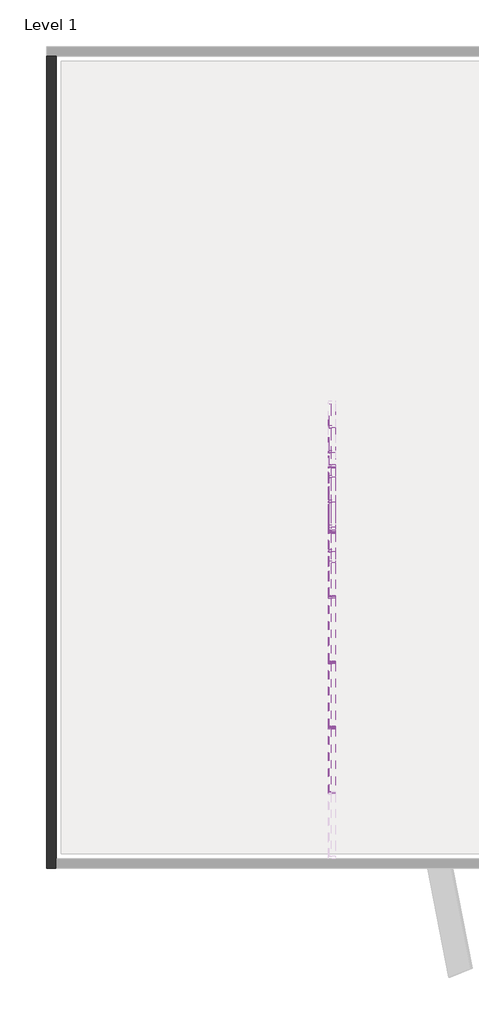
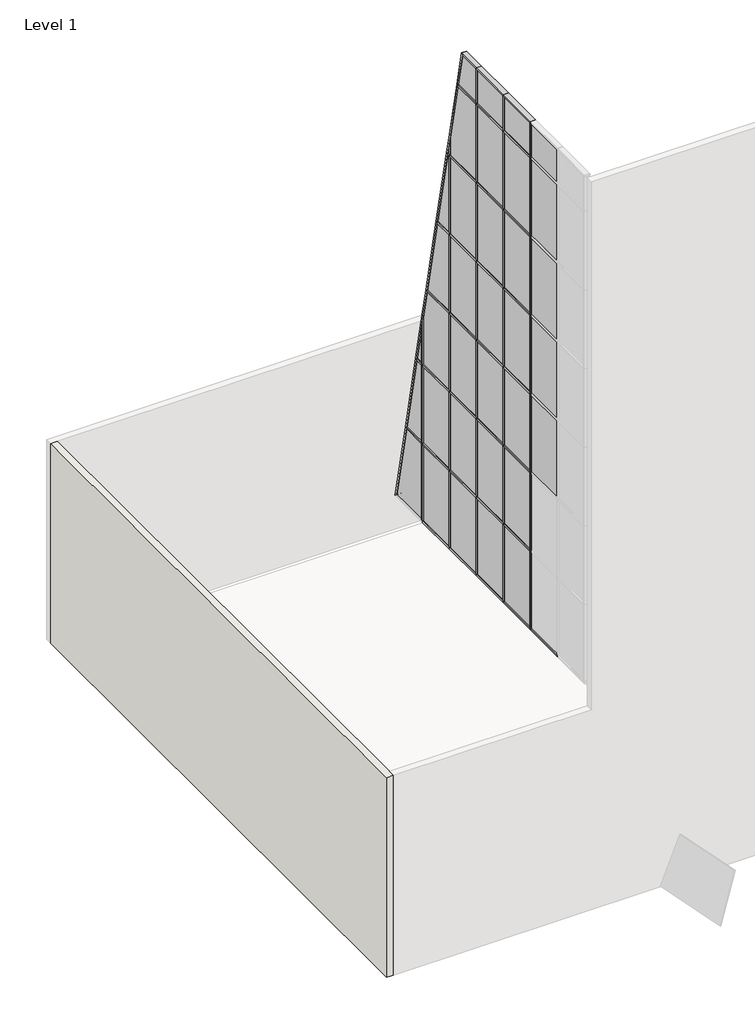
# One storey, part 2 of 4: 72 members, 35 plates, 1 wall.
"""IFC4 building model written with IfcOpenShell, lengths in millimetres."""

from ifc_helpers import new_model, si_unit, origin, place, context, project, spatial, faceted_brep, transform, mapped, element, save
from components import rectangular_mullion_50_x_150mm_518b68e2, rectangular_mullion_50_x_150mm_6225e4e3, rectangular_mullion_50_x_150mm_4186046b, rectangular_mullion_50_x_150mm_c32e1d9f, rectangular_mullion_50_x_150mm_5e882217, rectangular_mullion_50_x_150mm_9c4394d0, rectangular_mullion_50_x_150mm_83d39878, rectangular_mullion_50_x_150mm_ab79993e, rectangular_mullion_50_x_150mm_a810ca79, rectangular_mullion_50_x_150mm_5f09bd8f, rectangular_mullion_50_x_150mm_a6983a9d, rectangular_mullion_50_x_150mm_f096a579, rectangular_mullion_50_x_150mm_e5e13951, rectangular_mullion_50_x_150mm_64552576, rectangular_mullion_50_x_150mm_be9a8604, rectangular_mullion_50_x_150mm_5e9d6b44, rectangular_mullion_50_x_150mm_df767b7e, rectangular_mullion_50_x_150mm_b9e57bac, rectangular_mullion_50_x_150mm_3844b6de, rectangular_mullion_50_x_150mm_a9c68ae1, rectangular_mullion_50_x_150mm_3cb7fb0e, system_panel_glazed_df259216, system_panel_glazed_5715ea40, system_panel_glazed_c13ca40c, system_panel_glazed_f44025e2, system_panel_glazed_dfe15f06, system_panel_glazed_9da83126, system_panel_glazed_f5b096f9, system_panel_glazed_817d0208, system_panel_glazed_a6be7c91, system_panel_glazed_dd6b3847, system_panel_glazed_892f7a3c, system_panel_glazed_be4283e0

model = new_model("IFC4")

# Units and contexts
model_context = context("Model", 3, world=origin())
ifc_project = project(units=[si_unit("LENGTHUNIT", "METRE", prefix="MILLI")], contexts=[model_context])

# Site, building, storey
site = spatial("IfcSite", under=ifc_project)
building = spatial("IfcBuilding", under=site)
storey = spatial("IfcBuildingStorey", under=building, Name="Level 1", Elevation=0.0)

# Members
placement = place(None, origin())
rectangular_mullion_50_x_150mm_shape = rectangular_mullion_50_x_150mm_518b68e2(model_context)
element("IfcMember", 1, ObjectType="Rectangular Mullion : 50 x 150mm", at=placement, inside=storey, context=model_context, shape_type="MappedRepresentation", body=[
    mapped(rectangular_mullion_50_x_150mm_shape, transform((-8113.532296, 6709.8159291, 6850.0), x_axis=(0.0, -1.0, 0.0), y_axis=(-1.0, 0.0, 0.0), z_axis=(0.0, 0.0, -1.0))),
])
element("IfcMember", 2, ObjectType="Rectangular Mullion : 50 x 150mm", at=placement, inside=storey, context=model_context, shape_type="MappedRepresentation", body=[
    mapped(rectangular_mullion_50_x_150mm_shape, transform((-8113.532296, 5356.4956938, 6850.0), x_axis=(0.0, -1.0, 0.0), y_axis=(-1.0, 0.0, 0.0), z_axis=(0.0, 0.0, -1.0))),
])
element("IfcMember", 3, ObjectType="Rectangular Mullion : 50 x 150mm", at=placement, inside=storey, context=model_context, shape_type="MappedRepresentation", body=[
    mapped(rectangular_mullion_50_x_150mm_shape, transform((-8113.532296, 4003.1754584, 6850.0), x_axis=(0.0, -1.0, 0.0), y_axis=(-1.0, 0.0, 0.0), z_axis=(0.0, 0.0, -1.0))),
])
element("IfcMember", 4, ObjectType="Rectangular Mullion : 50 x 150mm", at=placement, inside=storey, context=model_context, shape_type="MappedRepresentation", body=[
    mapped(rectangular_mullion_50_x_150mm_shape, transform((-8113.532296, 2649.855223, 6850.0), x_axis=(0.0, -1.0, 0.0), y_axis=(-1.0, 0.0, 0.0), z_axis=(0.0, 0.0, -1.0))),
])
element("IfcMember", 5, ObjectType="Rectangular Mullion : 50 x 150mm", at=placement, inside=storey, context=model_context, shape_type="MappedRepresentation", body=[
    mapped(rectangular_mullion_50_x_150mm_shape, transform((-8113.532296, 1296.5349876, 6850.0), x_axis=(0.0, -1.0, 0.0), y_axis=(-1.0, 0.0, 0.0), z_axis=(0.0, 0.0, -1.0))),
])
rectangular_mullion_50_x_150mm_2_shape = rectangular_mullion_50_x_150mm_6225e4e3(model_context)
element("IfcMember", 6, ObjectType="Rectangular Mullion : 50 x 150mm", at=placement, inside=storey, context=model_context, shape_type="MappedRepresentation", body=[
    mapped(rectangular_mullion_50_x_150mm_2_shape, transform((-8113.532296, 6709.8159291, 9200.0), x_axis=(0.0, -1.0, 0.0), y_axis=(-1.0, 0.0, 0.0), z_axis=(0.0, 0.0, -1.0))),
])
element("IfcMember", 7, ObjectType="Rectangular Mullion : 50 x 150mm", at=placement, inside=storey, context=model_context, shape_type="MappedRepresentation", body=[
    mapped(rectangular_mullion_50_x_150mm_2_shape, transform((-8113.532296, 5356.4956938, 9200.0), x_axis=(0.0, -1.0, 0.0), y_axis=(-1.0, 0.0, 0.0), z_axis=(0.0, 0.0, -1.0))),
])
element("IfcMember", 8, ObjectType="Rectangular Mullion : 50 x 150mm", at=placement, inside=storey, context=model_context, shape_type="MappedRepresentation", body=[
    mapped(rectangular_mullion_50_x_150mm_2_shape, transform((-8113.532296, 4003.1754584, 9200.0), x_axis=(0.0, -1.0, 0.0), y_axis=(-1.0, 0.0, 0.0), z_axis=(0.0, 0.0, -1.0))),
])
element("IfcMember", 9, ObjectType="Rectangular Mullion : 50 x 150mm", at=placement, inside=storey, context=model_context, shape_type="MappedRepresentation", body=[
    mapped(rectangular_mullion_50_x_150mm_2_shape, transform((-8113.532296, 2649.855223, 9200.0), x_axis=(0.0, -1.0, 0.0), y_axis=(-1.0, 0.0, 0.0), z_axis=(0.0, 0.0, -1.0))),
])
element("IfcMember", 10, ObjectType="Rectangular Mullion : 50 x 150mm", at=placement, inside=storey, context=model_context, shape_type="MappedRepresentation", body=[
    mapped(rectangular_mullion_50_x_150mm_2_shape, transform((-8113.532296, 1296.5349876, 9200.0), x_axis=(0.0, -1.0, 0.0), y_axis=(-1.0, 0.0, 0.0), z_axis=(0.0, 0.0, -1.0))),
])
element("IfcMember", 11, ObjectType="Rectangular Mullion : 50 x 150mm", at=placement, inside=storey, context=model_context, shape_type="MappedRepresentation", body=[
    mapped(rectangular_mullion_50_x_150mm_2_shape, transform((-8113.532296, 5356.4956938, 11600.0), x_axis=(0.0, -1.0, 0.0), y_axis=(-1.0, 0.0, 0.0), z_axis=(0.0, 0.0, -1.0))),
])
element("IfcMember", 12, ObjectType="Rectangular Mullion : 50 x 150mm", at=placement, inside=storey, context=model_context, shape_type="MappedRepresentation", body=[
    mapped(rectangular_mullion_50_x_150mm_2_shape, transform((-8113.532296, 4003.1754584, 11600.0), x_axis=(0.0, -1.0, 0.0), y_axis=(-1.0, 0.0, 0.0), z_axis=(0.0, 0.0, -1.0))),
])
element("IfcMember", 13, ObjectType="Rectangular Mullion : 50 x 150mm", at=placement, inside=storey, context=model_context, shape_type="MappedRepresentation", body=[
    mapped(rectangular_mullion_50_x_150mm_2_shape, transform((-8113.532296, 2649.855223, 11600.0), x_axis=(0.0, -1.0, 0.0), y_axis=(-1.0, 0.0, 0.0), z_axis=(0.0, 0.0, -1.0))),
])
element("IfcMember", 14, ObjectType="Rectangular Mullion : 50 x 150mm", at=placement, inside=storey, context=model_context, shape_type="MappedRepresentation", body=[
    mapped(rectangular_mullion_50_x_150mm_2_shape, transform((-8113.532296, 1296.5349876, 11600.0), x_axis=(0.0, -1.0, 0.0), y_axis=(-1.0, 0.0, 0.0), z_axis=(0.0, 0.0, -1.0))),
])
element("IfcMember", 15, ObjectType="Rectangular Mullion : 50 x 150mm", at=placement, inside=storey, context=model_context, shape_type="MappedRepresentation", body=[
    mapped(rectangular_mullion_50_x_150mm_2_shape, transform((-8113.532296, 5356.4956938, 14000.0), x_axis=(0.0, -1.0, 0.0), y_axis=(-1.0, 0.0, 0.0), z_axis=(0.0, 0.0, -1.0))),
])
element("IfcMember", 16, ObjectType="Rectangular Mullion : 50 x 150mm", at=placement, inside=storey, context=model_context, shape_type="MappedRepresentation", body=[
    mapped(rectangular_mullion_50_x_150mm_2_shape, transform((-8113.532296, 4003.1754584, 14000.0), x_axis=(0.0, -1.0, 0.0), y_axis=(-1.0, 0.0, 0.0), z_axis=(0.0, 0.0, -1.0))),
])
element("IfcMember", 17, ObjectType="Rectangular Mullion : 50 x 150mm", at=placement, inside=storey, context=model_context, shape_type="MappedRepresentation", body=[
    mapped(rectangular_mullion_50_x_150mm_2_shape, transform((-8113.532296, 2649.855223, 14000.0), x_axis=(0.0, -1.0, 0.0), y_axis=(-1.0, 0.0, 0.0), z_axis=(0.0, 0.0, -1.0))),
])
element("IfcMember", 18, ObjectType="Rectangular Mullion : 50 x 150mm", at=placement, inside=storey, context=model_context, shape_type="MappedRepresentation", body=[
    mapped(rectangular_mullion_50_x_150mm_2_shape, transform((-8113.532296, 1296.5349876, 14000.0), x_axis=(0.0, -1.0, 0.0), y_axis=(-1.0, 0.0, 0.0), z_axis=(0.0, 0.0, -1.0))),
])
element("IfcMember", 19, ObjectType="Rectangular Mullion : 50 x 150mm", at=placement, inside=storey, context=model_context, shape_type="MappedRepresentation", body=[
    mapped(rectangular_mullion_50_x_150mm_2_shape, transform((-8113.532296, 5356.4956938, 16400.0), x_axis=(0.0, -1.0, 0.0), y_axis=(-1.0, 0.0, 0.0), z_axis=(0.0, 0.0, -1.0))),
])
element("IfcMember", 20, ObjectType="Rectangular Mullion : 50 x 150mm", at=placement, inside=storey, context=model_context, shape_type="MappedRepresentation", body=[
    mapped(rectangular_mullion_50_x_150mm_2_shape, transform((-8113.532296, 4003.1754584, 16400.0), x_axis=(0.0, -1.0, 0.0), y_axis=(-1.0, 0.0, 0.0), z_axis=(0.0, 0.0, -1.0))),
])
element("IfcMember", 21, ObjectType="Rectangular Mullion : 50 x 150mm", at=placement, inside=storey, context=model_context, shape_type="MappedRepresentation", body=[
    mapped(rectangular_mullion_50_x_150mm_2_shape, transform((-8113.532296, 2649.855223, 16400.0), x_axis=(0.0, -1.0, 0.0), y_axis=(-1.0, 0.0, 0.0), z_axis=(0.0, 0.0, -1.0))),
])
element("IfcMember", 22, ObjectType="Rectangular Mullion : 50 x 150mm", at=placement, inside=storey, context=model_context, shape_type="MappedRepresentation", body=[
    mapped(rectangular_mullion_50_x_150mm_2_shape, transform((-8113.532296, 1296.5349876, 16400.0), x_axis=(0.0, -1.0, 0.0), y_axis=(-1.0, 0.0, 0.0), z_axis=(0.0, 0.0, -1.0))),
])
element("IfcMember", 23, ObjectType="Rectangular Mullion : 50 x 150mm", at=placement, inside=storey, context=model_context, shape_type="MappedRepresentation", body=[
    mapped(rectangular_mullion_50_x_150mm_2_shape, transform((-8113.532296, 4003.1754584, 18800.0), x_axis=(0.0, -1.0, 0.0), y_axis=(-1.0, 0.0, 0.0), z_axis=(0.0, 0.0, -1.0))),
])
element("IfcMember", 24, ObjectType="Rectangular Mullion : 50 x 150mm", at=placement, inside=storey, context=model_context, shape_type="MappedRepresentation", body=[
    mapped(rectangular_mullion_50_x_150mm_2_shape, transform((-8113.532296, 2649.855223, 18800.0), x_axis=(0.0, -1.0, 0.0), y_axis=(-1.0, 0.0, 0.0), z_axis=(0.0, 0.0, -1.0))),
])
element("IfcMember", 25, ObjectType="Rectangular Mullion : 50 x 150mm", at=placement, inside=storey, context=model_context, shape_type="MappedRepresentation", body=[
    mapped(rectangular_mullion_50_x_150mm_2_shape, transform((-8113.532296, 1296.5349876, 18800.0), x_axis=(0.0, -1.0, 0.0), y_axis=(-1.0, 0.0, 0.0), z_axis=(0.0, 0.0, -1.0))),
])
rectangular_mullion_50_x_150mm_3_shape = rectangular_mullion_50_x_150mm_4186046b(model_context)
element("IfcMember", 26, ObjectType="Rectangular Mullion : 50 x 150mm", at=placement, inside=storey, context=model_context, shape_type="MappedRepresentation", body=[
    mapped(rectangular_mullion_50_x_150mm_3_shape, transform((-8113.532296, 2649.855223, 22300.0), x_axis=(0.0, 0.0, 1.0), y_axis=(-1.0, 0.0, 0.0), z_axis=(0.0, -1.0, 0.0))),
])
element("IfcMember", 27, ObjectType="Rectangular Mullion : 50 x 150mm", at=placement, inside=storey, context=model_context, shape_type="MappedRepresentation", body=[
    mapped(rectangular_mullion_50_x_150mm_3_shape, transform((-8113.532296, 1296.5349876, 22300.0), x_axis=(0.0, 0.0, 1.0), y_axis=(-1.0, 0.0, 0.0), z_axis=(0.0, -1.0, 0.0))),
])
element("IfcMember", 28, ObjectType="Rectangular Mullion : 50 x 150mm", at=placement, inside=storey, context=model_context, shape_type="MappedRepresentation", body=[
    mapped(rectangular_mullion_50_x_150mm_3_shape, transform((-8113.532296, 6709.8159291, 6800.0), x_axis=(0.0, 0.0, -1.0), y_axis=(-1.0, 0.0, 0.0), z_axis=(0.0, 1.0, 0.0))),
])
element("IfcMember", 29, ObjectType="Rectangular Mullion : 50 x 150mm", at=placement, inside=storey, context=model_context, shape_type="MappedRepresentation", body=[
    mapped(rectangular_mullion_50_x_150mm_3_shape, transform((-8113.532296, 5356.4956938, 6800.0), x_axis=(0.0, 0.0, -1.0), y_axis=(-1.0, 0.0, 0.0), z_axis=(0.0, 1.0, 0.0))),
])
element("IfcMember", 30, ObjectType="Rectangular Mullion : 50 x 150mm", at=placement, inside=storey, context=model_context, shape_type="MappedRepresentation", body=[
    mapped(rectangular_mullion_50_x_150mm_3_shape, transform((-8113.532296, 4003.1754584, 6800.0), x_axis=(0.0, 0.0, -1.0), y_axis=(-1.0, 0.0, 0.0), z_axis=(0.0, 1.0, 0.0))),
])
element("IfcMember", 31, ObjectType="Rectangular Mullion : 50 x 150mm", at=placement, inside=storey, context=model_context, shape_type="MappedRepresentation", body=[
    mapped(rectangular_mullion_50_x_150mm_3_shape, transform((-8113.532296, 2649.855223, 6800.0), x_axis=(0.0, 0.0, -1.0), y_axis=(-1.0, 0.0, 0.0), z_axis=(0.0, 1.0, 0.0))),
])
element("IfcMember", 32, ObjectType="Rectangular Mullion : 50 x 150mm", at=placement, inside=storey, context=model_context, shape_type="MappedRepresentation", body=[
    mapped(rectangular_mullion_50_x_150mm_3_shape, transform((-8113.532296, 1296.5349876, 6800.0), x_axis=(0.0, 0.0, -1.0), y_axis=(-1.0, 0.0, 0.0), z_axis=(0.0, 1.0, 0.0))),
])
rectangular_mullion_50_x_150mm_4_shape = rectangular_mullion_50_x_150mm_c32e1d9f(model_context)
element("IfcMember", 33, ObjectType="Rectangular Mullion : 50 x 150mm", at=placement, inside=storey, context=model_context, shape_type="MappedRepresentation", body=[
    mapped(rectangular_mullion_50_x_150mm_4_shape, transform((-8113.532296, 5381.4956938, 9200.0), x_axis=(0.0, 0.0, 1.0), y_axis=(-1.0, 0.0, 0.0), z_axis=(0.0, -1.0, 0.0))),
])
element("IfcMember", 34, ObjectType="Rectangular Mullion : 50 x 150mm", at=placement, inside=storey, context=model_context, shape_type="MappedRepresentation", body=[
    mapped(rectangular_mullion_50_x_150mm_4_shape, transform((-8113.532296, 4028.1754584, 9200.0), x_axis=(0.0, 0.0, 1.0), y_axis=(-1.0, 0.0, 0.0), z_axis=(0.0, -1.0, 0.0))),
])
element("IfcMember", 35, ObjectType="Rectangular Mullion : 50 x 150mm", at=placement, inside=storey, context=model_context, shape_type="MappedRepresentation", body=[
    mapped(rectangular_mullion_50_x_150mm_4_shape, transform((-8113.532296, 2674.855223, 9200.0), x_axis=(0.0, 0.0, 1.0), y_axis=(-1.0, 0.0, 0.0), z_axis=(0.0, -1.0, 0.0))),
])
element("IfcMember", 36, ObjectType="Rectangular Mullion : 50 x 150mm", at=placement, inside=storey, context=model_context, shape_type="MappedRepresentation", body=[
    mapped(rectangular_mullion_50_x_150mm_4_shape, transform((-8113.532296, 1321.5349876, 9200.0), x_axis=(0.0, 0.0, 1.0), y_axis=(-1.0, 0.0, 0.0), z_axis=(0.0, -1.0, 0.0))),
])
element("IfcMember", 37, ObjectType="Rectangular Mullion : 50 x 150mm", at=placement, inside=storey, context=model_context, shape_type="MappedRepresentation", body=[
    mapped(rectangular_mullion_50_x_150mm_4_shape, transform((-8113.532296, 5381.4956938, 11600.0), x_axis=(0.0, 0.0, 1.0), y_axis=(-1.0, 0.0, 0.0), z_axis=(0.0, -1.0, 0.0))),
])
element("IfcMember", 38, ObjectType="Rectangular Mullion : 50 x 150mm", at=placement, inside=storey, context=model_context, shape_type="MappedRepresentation", body=[
    mapped(rectangular_mullion_50_x_150mm_4_shape, transform((-8113.532296, 4028.1754584, 11600.0), x_axis=(0.0, 0.0, 1.0), y_axis=(-1.0, 0.0, 0.0), z_axis=(0.0, -1.0, 0.0))),
])
element("IfcMember", 39, ObjectType="Rectangular Mullion : 50 x 150mm", at=placement, inside=storey, context=model_context, shape_type="MappedRepresentation", body=[
    mapped(rectangular_mullion_50_x_150mm_4_shape, transform((-8113.532296, 2674.855223, 11600.0), x_axis=(0.0, 0.0, 1.0), y_axis=(-1.0, 0.0, 0.0), z_axis=(0.0, -1.0, 0.0))),
])
element("IfcMember", 40, ObjectType="Rectangular Mullion : 50 x 150mm", at=placement, inside=storey, context=model_context, shape_type="MappedRepresentation", body=[
    mapped(rectangular_mullion_50_x_150mm_4_shape, transform((-8113.532296, 1321.5349876, 11600.0), x_axis=(0.0, 0.0, 1.0), y_axis=(-1.0, 0.0, 0.0), z_axis=(0.0, -1.0, 0.0))),
])
element("IfcMember", 41, ObjectType="Rectangular Mullion : 50 x 150mm", at=placement, inside=storey, context=model_context, shape_type="MappedRepresentation", body=[
    mapped(rectangular_mullion_50_x_150mm_4_shape, transform((-8113.532296, 4028.1754584, 14000.0), x_axis=(0.0, 0.0, 1.0), y_axis=(-1.0, 0.0, 0.0), z_axis=(0.0, -1.0, 0.0))),
])
element("IfcMember", 42, ObjectType="Rectangular Mullion : 50 x 150mm", at=placement, inside=storey, context=model_context, shape_type="MappedRepresentation", body=[
    mapped(rectangular_mullion_50_x_150mm_4_shape, transform((-8113.532296, 2674.855223, 14000.0), x_axis=(0.0, 0.0, 1.0), y_axis=(-1.0, 0.0, 0.0), z_axis=(0.0, -1.0, 0.0))),
])
element("IfcMember", 43, ObjectType="Rectangular Mullion : 50 x 150mm", at=placement, inside=storey, context=model_context, shape_type="MappedRepresentation", body=[
    mapped(rectangular_mullion_50_x_150mm_4_shape, transform((-8113.532296, 1321.5349876, 14000.0), x_axis=(0.0, 0.0, 1.0), y_axis=(-1.0, 0.0, 0.0), z_axis=(0.0, -1.0, 0.0))),
])
element("IfcMember", 44, ObjectType="Rectangular Mullion : 50 x 150mm", at=placement, inside=storey, context=model_context, shape_type="MappedRepresentation", body=[
    mapped(rectangular_mullion_50_x_150mm_4_shape, transform((-8113.532296, 4028.1754584, 16400.0), x_axis=(0.0, 0.0, 1.0), y_axis=(-1.0, 0.0, 0.0), z_axis=(0.0, -1.0, 0.0))),
])
element("IfcMember", 45, ObjectType="Rectangular Mullion : 50 x 150mm", at=placement, inside=storey, context=model_context, shape_type="MappedRepresentation", body=[
    mapped(rectangular_mullion_50_x_150mm_4_shape, transform((-8113.532296, 2674.855223, 16400.0), x_axis=(0.0, 0.0, 1.0), y_axis=(-1.0, 0.0, 0.0), z_axis=(0.0, -1.0, 0.0))),
])
element("IfcMember", 46, ObjectType="Rectangular Mullion : 50 x 150mm", at=placement, inside=storey, context=model_context, shape_type="MappedRepresentation", body=[
    mapped(rectangular_mullion_50_x_150mm_4_shape, transform((-8113.532296, 1321.5349876, 16400.0), x_axis=(0.0, 0.0, 1.0), y_axis=(-1.0, 0.0, 0.0), z_axis=(0.0, -1.0, 0.0))),
])
element("IfcMember", 47, ObjectType="Rectangular Mullion : 50 x 150mm", at=placement, inside=storey, context=model_context, shape_type="MappedRepresentation", body=[
    mapped(rectangular_mullion_50_x_150mm_4_shape, transform((-8113.532296, 4028.1754584, 18800.0), x_axis=(0.0, 0.0, 1.0), y_axis=(-1.0, 0.0, 0.0), z_axis=(0.0, -1.0, 0.0))),
])
element("IfcMember", 48, ObjectType="Rectangular Mullion : 50 x 150mm", at=placement, inside=storey, context=model_context, shape_type="MappedRepresentation", body=[
    mapped(rectangular_mullion_50_x_150mm_4_shape, transform((-8113.532296, 2674.855223, 18800.0), x_axis=(0.0, 0.0, 1.0), y_axis=(-1.0, 0.0, 0.0), z_axis=(0.0, -1.0, 0.0))),
])
element("IfcMember", 49, ObjectType="Rectangular Mullion : 50 x 150mm", at=placement, inside=storey, context=model_context, shape_type="MappedRepresentation", body=[
    mapped(rectangular_mullion_50_x_150mm_4_shape, transform((-8113.532296, 1321.5349876, 18800.0), x_axis=(0.0, 0.0, 1.0), y_axis=(-1.0, 0.0, 0.0), z_axis=(0.0, -1.0, 0.0))),
])
element("IfcMember", 50, ObjectType="Rectangular Mullion : 50 x 150mm", at=placement, inside=storey, context=model_context, shape_type="MappedRepresentation", body=[
    mapped(rectangular_mullion_50_x_150mm_4_shape, transform((-8113.532296, 2674.855223, 21200.0), x_axis=(0.0, 0.0, 1.0), y_axis=(-1.0, 0.0, 0.0), z_axis=(0.0, -1.0, 0.0))),
])
element("IfcMember", 51, ObjectType="Rectangular Mullion : 50 x 150mm", at=placement, inside=storey, context=model_context, shape_type="MappedRepresentation", body=[
    mapped(rectangular_mullion_50_x_150mm_4_shape, transform((-8113.532296, 1321.5349876, 21200.0), x_axis=(0.0, 0.0, 1.0), y_axis=(-1.0, 0.0, 0.0), z_axis=(0.0, -1.0, 0.0))),
])
rectangular_mullion_50_x_150mm_5_shape = rectangular_mullion_50_x_150mm_5e882217(model_context)
element("IfcMember", 52, ObjectType="Rectangular Mullion : 50 x 150mm", at=placement, inside=storey, context=model_context, shape_type="MappedRepresentation", body=[
    mapped(rectangular_mullion_50_x_150mm_5_shape, transform((-8113.532296, 4748.602516, 22300.0), x_axis=(0.0, 0.9778914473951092, 0.2091131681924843), y_axis=(-1.0, 0.0, 0.0), z_axis=(0.0, -0.2091131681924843, 0.9778914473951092))),
])
rectangular_mullion_50_x_150mm_6_shape = rectangular_mullion_50_x_150mm_9c4394d0(model_context)
element("IfcMember", 53, ObjectType="Rectangular Mullion : 50 x 150mm", at=placement, inside=storey, context=model_context, shape_type="MappedRepresentation", body=[
    mapped(rectangular_mullion_50_x_150mm_6_shape, transform((-8113.532296, 4003.1754584, 22300.0), x_axis=(0.0, 0.0, 1.0), y_axis=(-1.0, 0.0, 0.0), z_axis=(0.0, -1.0, 0.0))),
])
rectangular_mullion_50_x_150mm_7_shape = rectangular_mullion_50_x_150mm_83d39878(model_context)
element("IfcMember", 54, ObjectType="Rectangular Mullion : 50 x 150mm", at=placement, inside=storey, context=model_context, shape_type="MappedRepresentation", body=[
    mapped(rectangular_mullion_50_x_150mm_7_shape, transform((-8113.532296, 6709.8159291, 13128.6319805), x_axis=(0.0, 0.9778914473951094, 0.20911316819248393), y_axis=(-1.0, 0.0, 0.0), z_axis=(0.0, -0.20911316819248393, 0.9778914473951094))),
])
rectangular_mullion_50_x_150mm_8_shape = rectangular_mullion_50_x_150mm_ab79993e(model_context)
element("IfcMember", 55, ObjectType="Rectangular Mullion : 50 x 150mm", at=placement, inside=storey, context=model_context, shape_type="MappedRepresentation", body=[
    mapped(rectangular_mullion_50_x_150mm_8_shape, transform((-8113.532296, 5356.4956938, 19457.263961), x_axis=(0.0, 0.9778914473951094, 0.2091131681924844), y_axis=(-1.0, 0.0, 0.0), z_axis=(0.0, -0.2091131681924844, 0.9778914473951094))),
])
rectangular_mullion_50_x_150mm_9_shape = rectangular_mullion_50_x_150mm_a810ca79(model_context)
element("IfcMember", 56, ObjectType="Rectangular Mullion : 50 x 150mm", at=placement, inside=storey, context=model_context, shape_type="MappedRepresentation", body=[
    mapped(rectangular_mullion_50_x_150mm_9_shape, transform((-8113.532296, 7549.9180512, 9200.0), x_axis=(0.0, 0.9778914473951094, 0.20911316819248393), y_axis=(-1.0, 0.0, 0.0), z_axis=(0.0, -0.2091131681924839, 0.9778914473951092))),
])
rectangular_mullion_50_x_150mm_10_shape = rectangular_mullion_50_x_150mm_5f09bd8f(model_context)
element("IfcMember", 57, ObjectType="Rectangular Mullion : 50 x 150mm", at=placement, inside=storey, context=model_context, shape_type="MappedRepresentation", body=[
    mapped(rectangular_mullion_50_x_150mm_10_shape, transform((-8113.532296, 7036.6999379, 11600.0), x_axis=(0.0, 0.9778914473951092, 0.20911316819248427), y_axis=(-1.0, 0.0, 0.0), z_axis=(0.0, -0.20911316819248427, 0.9778914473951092))),
])
rectangular_mullion_50_x_150mm_11_shape = rectangular_mullion_50_x_150mm_a6983a9d(model_context)
element("IfcMember", 58, ObjectType="Rectangular Mullion : 50 x 150mm", at=placement, inside=storey, context=model_context, shape_type="MappedRepresentation", body=[
    mapped(rectangular_mullion_50_x_150mm_11_shape, transform((-8113.532296, 6523.4818246, 14000.0), x_axis=(0.0, 0.9778914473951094, 0.20911316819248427), y_axis=(-1.0, 0.0, 0.0), z_axis=(0.0, -0.20911316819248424, 0.9778914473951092))),
])
element("IfcMember", 59, ObjectType="Rectangular Mullion : 50 x 150mm", at=placement, inside=storey, context=model_context, shape_type="MappedRepresentation", body=[
    mapped(rectangular_mullion_50_x_150mm_10_shape, transform((-8113.532296, 6010.2637112, 16400.0), x_axis=(0.0, 0.9778914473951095, 0.20911316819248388), y_axis=(-1.0, 0.0, 0.0), z_axis=(0.0, -0.20911316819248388, 0.9778914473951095))),
])
element("IfcMember", 60, ObjectType="Rectangular Mullion : 50 x 150mm", at=placement, inside=storey, context=model_context, shape_type="MappedRepresentation", body=[
    mapped(rectangular_mullion_50_x_150mm_10_shape, transform((-8113.532296, 5497.0455979, 18800.0), x_axis=(0.0, 0.9778914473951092, 0.20911316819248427), y_axis=(-1.0, 0.0, 0.0), z_axis=(0.0, -0.20911316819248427, 0.9778914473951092))),
])
rectangular_mullion_50_x_150mm_12_shape = rectangular_mullion_50_x_150mm_f096a579(model_context)
element("IfcMember", 61, ObjectType="Rectangular Mullion : 50 x 150mm", at=placement, inside=storey, context=model_context, shape_type="MappedRepresentation", body=[
    mapped(rectangular_mullion_50_x_150mm_12_shape, transform((-8113.532296, 6734.8159291, 9200.0), x_axis=(0.0, 0.0, 1.0), y_axis=(-1.0, 0.0, 0.0), z_axis=(0.0, -1.0, 0.0))),
])
rectangular_mullion_50_x_150mm_13_shape = rectangular_mullion_50_x_150mm_e5e13951(model_context)
element("IfcMember", 62, ObjectType="Rectangular Mullion : 50 x 150mm", at=placement, inside=storey, context=model_context, shape_type="MappedRepresentation", body=[
    mapped(rectangular_mullion_50_x_150mm_13_shape, transform((-8113.532296, 6734.8159291, 11600.0), x_axis=(0.0, 0.0, 1.0), y_axis=(-1.0, 0.0, 0.0), z_axis=(0.0, -1.0, 0.0))),
])
rectangular_mullion_50_x_150mm_14_shape = rectangular_mullion_50_x_150mm_64552576(model_context)
element("IfcMember", 63, ObjectType="Rectangular Mullion : 50 x 150mm", at=placement, inside=storey, context=model_context, shape_type="MappedRepresentation", body=[
    mapped(rectangular_mullion_50_x_150mm_14_shape, transform((-8113.532296, 5381.4956938, 14000.0), x_axis=(0.0, 0.0, 1.0), y_axis=(-1.0, 0.0, 0.0), z_axis=(0.0, -1.0, 0.0))),
])
rectangular_mullion_50_x_150mm_15_shape = rectangular_mullion_50_x_150mm_be9a8604(model_context)
element("IfcMember", 64, ObjectType="Rectangular Mullion : 50 x 150mm", at=placement, inside=storey, context=model_context, shape_type="MappedRepresentation", body=[
    mapped(rectangular_mullion_50_x_150mm_15_shape, transform((-8113.532296, 5381.4956938, 16400.0), x_axis=(0.0, 0.0, 1.0), y_axis=(-1.0, 0.0, 0.0), z_axis=(0.0, -1.0, 0.0))),
])
rectangular_mullion_50_x_150mm_16_shape = rectangular_mullion_50_x_150mm_5e9d6b44(model_context)
element("IfcMember", 65, ObjectType="Rectangular Mullion : 50 x 150mm", at=placement, inside=storey, context=model_context, shape_type="MappedRepresentation", body=[
    mapped(rectangular_mullion_50_x_150mm_16_shape, transform((-8113.532296, 6709.8159291, 11600.0), x_axis=(0.0, -1.0, 0.0), y_axis=(-1.0, 0.0, 0.0), z_axis=(0.0, 0.0, -1.0))),
])
rectangular_mullion_50_x_150mm_17_shape = rectangular_mullion_50_x_150mm_df767b7e(model_context)
element("IfcMember", 66, ObjectType="Rectangular Mullion : 50 x 150mm", at=placement, inside=storey, context=model_context, shape_type="MappedRepresentation", body=[
    mapped(rectangular_mullion_50_x_150mm_17_shape, transform((-8113.532296, 5381.4956938, 18800.0), x_axis=(0.0, 0.0, 1.0), y_axis=(-1.0, 0.0, 0.0), z_axis=(0.0, -1.0, 0.0))),
])
rectangular_mullion_50_x_150mm_18_shape = rectangular_mullion_50_x_150mm_b9e57bac(model_context)
element("IfcMember", 67, ObjectType="Rectangular Mullion : 50 x 150mm", at=placement, inside=storey, context=model_context, shape_type="MappedRepresentation", body=[
    mapped(rectangular_mullion_50_x_150mm_18_shape, transform((-8113.532296, 5356.4956938, 18800.0), x_axis=(0.0, -1.0, 0.0), y_axis=(-1.0, 0.0, 0.0), z_axis=(0.0, 0.0, -1.0))),
])
rectangular_mullion_50_x_150mm_19_shape = rectangular_mullion_50_x_150mm_3844b6de(model_context)
element("IfcMember", 68, ObjectType="Rectangular Mullion : 50 x 150mm", at=placement, inside=storey, context=model_context, shape_type="MappedRepresentation", body=[
    mapped(rectangular_mullion_50_x_150mm_19_shape, transform((-8113.532296, 4983.8274846, 21200.0), x_axis=(0.0, 0.9778914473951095, 0.20911316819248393), y_axis=(-1.0, 0.0, 0.0), z_axis=(0.0, -0.20911316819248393, 0.9778914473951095))),
])
rectangular_mullion_50_x_150mm_20_shape = rectangular_mullion_50_x_150mm_a9c68ae1(model_context)
element("IfcMember", 69, ObjectType="Rectangular Mullion : 50 x 150mm", at=placement, inside=storey, context=model_context, shape_type="MappedRepresentation", body=[
    mapped(rectangular_mullion_50_x_150mm_20_shape, transform((-8113.532296, 4003.1754584, 21200.0), x_axis=(0.0, -1.0, 0.0), y_axis=(-1.0, 0.0, 0.0), z_axis=(0.0, 0.0, -1.0))),
])
element("IfcMember", 70, ObjectType="Rectangular Mullion : 50 x 150mm", at=placement, inside=storey, context=model_context, shape_type="MappedRepresentation", body=[
    mapped(rectangular_mullion_50_x_150mm_20_shape, transform((-8113.532296, 2649.855223, 21200.0), x_axis=(0.0, -1.0, 0.0), y_axis=(-1.0, 0.0, 0.0), z_axis=(0.0, 0.0, -1.0))),
])
element("IfcMember", 71, ObjectType="Rectangular Mullion : 50 x 150mm", at=placement, inside=storey, context=model_context, shape_type="MappedRepresentation", body=[
    mapped(rectangular_mullion_50_x_150mm_20_shape, transform((-8113.532296, 1296.5349876, 21200.0), x_axis=(0.0, -1.0, 0.0), y_axis=(-1.0, 0.0, 0.0), z_axis=(0.0, 0.0, -1.0))),
])
rectangular_mullion_50_x_150mm_21_shape = rectangular_mullion_50_x_150mm_3cb7fb0e(model_context)
element("IfcMember", 72, ObjectType="Rectangular Mullion : 50 x 150mm", at=placement, inside=storey, context=model_context, shape_type="MappedRepresentation", body=[
    mapped(rectangular_mullion_50_x_150mm_21_shape, transform((-8113.532296, 4028.1754584, 21200.0), x_axis=(0.0, 0.0, 1.0), y_axis=(-1.0, 0.0, 0.0), z_axis=(0.0, -1.0, 0.0))),
])

# Plates
system_panel_glazed_shape = system_panel_glazed_df259216(model_context)
element("IfcPlate", 73, ObjectType="System Panel : Glazed", at=placement, inside=storey, context=model_context, shape_type="MappedRepresentation", body=[
    mapped(system_panel_glazed_shape, transform((-8113.532296, 6033.1558115, 6850.0), x_axis=(0.0, -1.0, 0.0), y_axis=(1.0, 0.0, 0.0), z_axis=(0.0, 0.0, 1.0))),
])
element("IfcPlate", 74, ObjectType="System Panel : Glazed", at=placement, inside=storey, context=model_context, shape_type="MappedRepresentation", body=[
    mapped(system_panel_glazed_shape, transform((-8113.532296, 4679.8355761, 6850.0), x_axis=(0.0, -1.0, 0.0), y_axis=(1.0, 0.0, 0.0), z_axis=(0.0, 0.0, 1.0))),
])
element("IfcPlate", 75, ObjectType="System Panel : Glazed", at=placement, inside=storey, context=model_context, shape_type="MappedRepresentation", body=[
    mapped(system_panel_glazed_shape, transform((-8113.532296, 3326.5153407, 6850.0), x_axis=(0.0, -1.0, 0.0), y_axis=(1.0, 0.0, 0.0), z_axis=(0.0, 0.0, 1.0))),
])
element("IfcPlate", 76, ObjectType="System Panel : Glazed", at=placement, inside=storey, context=model_context, shape_type="MappedRepresentation", body=[
    mapped(system_panel_glazed_shape, transform((-8113.532296, 1973.1951053, 6850.0), x_axis=(0.0, -1.0, 0.0), y_axis=(1.0, 0.0, 0.0), z_axis=(0.0, 0.0, 1.0))),
])
system_panel_glazed_2_shape = system_panel_glazed_5715ea40(model_context)
element("IfcPlate", 77, ObjectType="System Panel : Glazed", at=placement, inside=storey, context=model_context, shape_type="MappedRepresentation", body=[
    mapped(system_panel_glazed_2_shape, transform((-8113.532296, 6033.1558115, 9225.0), x_axis=(0.0, -1.0, 0.0), y_axis=(1.0, 0.0, 0.0), z_axis=(0.0, 0.0, 1.0))),
])
element("IfcPlate", 78, ObjectType="System Panel : Glazed", at=placement, inside=storey, context=model_context, shape_type="MappedRepresentation", body=[
    mapped(system_panel_glazed_2_shape, transform((-8113.532296, 4679.8355761, 9225.0), x_axis=(0.0, -1.0, 0.0), y_axis=(1.0, 0.0, 0.0), z_axis=(0.0, 0.0, 1.0))),
])
element("IfcPlate", 79, ObjectType="System Panel : Glazed", at=placement, inside=storey, context=model_context, shape_type="MappedRepresentation", body=[
    mapped(system_panel_glazed_2_shape, transform((-8113.532296, 3326.5153407, 9225.0), x_axis=(0.0, -1.0, 0.0), y_axis=(1.0, 0.0, 0.0), z_axis=(0.0, 0.0, 1.0))),
])
element("IfcPlate", 80, ObjectType="System Panel : Glazed", at=placement, inside=storey, context=model_context, shape_type="MappedRepresentation", body=[
    mapped(system_panel_glazed_2_shape, transform((-8113.532296, 1973.1951053, 9225.0), x_axis=(0.0, -1.0, 0.0), y_axis=(1.0, 0.0, 0.0), z_axis=(0.0, 0.0, 1.0))),
])
element("IfcPlate", 81, ObjectType="System Panel : Glazed", at=placement, inside=storey, context=model_context, shape_type="MappedRepresentation", body=[
    mapped(system_panel_glazed_2_shape, transform((-8113.532296, 4679.8355761, 11625.0), x_axis=(0.0, -1.0, 0.0), y_axis=(1.0, 0.0, 0.0), z_axis=(0.0, 0.0, 1.0))),
])
element("IfcPlate", 82, ObjectType="System Panel : Glazed", at=placement, inside=storey, context=model_context, shape_type="MappedRepresentation", body=[
    mapped(system_panel_glazed_2_shape, transform((-8113.532296, 3326.5153407, 11625.0), x_axis=(0.0, -1.0, 0.0), y_axis=(1.0, 0.0, 0.0), z_axis=(0.0, 0.0, 1.0))),
])
element("IfcPlate", 83, ObjectType="System Panel : Glazed", at=placement, inside=storey, context=model_context, shape_type="MappedRepresentation", body=[
    mapped(system_panel_glazed_2_shape, transform((-8113.532296, 1973.1951053, 11625.0), x_axis=(0.0, -1.0, 0.0), y_axis=(1.0, 0.0, 0.0), z_axis=(0.0, 0.0, 1.0))),
])
element("IfcPlate", 84, ObjectType="System Panel : Glazed", at=placement, inside=storey, context=model_context, shape_type="MappedRepresentation", body=[
    mapped(system_panel_glazed_2_shape, transform((-8113.532296, 619.8748699, 11625.0), x_axis=(0.0, -1.0, 0.0), y_axis=(1.0, 0.0, 0.0), z_axis=(0.0, 0.0, 1.0))),
])
element("IfcPlate", 85, ObjectType="System Panel : Glazed", at=placement, inside=storey, context=model_context, shape_type="MappedRepresentation", body=[
    mapped(system_panel_glazed_2_shape, transform((-8113.532296, 4679.8355761, 14025.0), x_axis=(0.0, -1.0, 0.0), y_axis=(1.0, 0.0, 0.0), z_axis=(0.0, 0.0, 1.0))),
])
element("IfcPlate", 86, ObjectType="System Panel : Glazed", at=placement, inside=storey, context=model_context, shape_type="MappedRepresentation", body=[
    mapped(system_panel_glazed_2_shape, transform((-8113.532296, 3326.5153407, 14025.0), x_axis=(0.0, -1.0, 0.0), y_axis=(1.0, 0.0, 0.0), z_axis=(0.0, 0.0, 1.0))),
])
element("IfcPlate", 87, ObjectType="System Panel : Glazed", at=placement, inside=storey, context=model_context, shape_type="MappedRepresentation", body=[
    mapped(system_panel_glazed_2_shape, transform((-8113.532296, 1973.1951053, 14025.0), x_axis=(0.0, -1.0, 0.0), y_axis=(1.0, 0.0, 0.0), z_axis=(0.0, 0.0, 1.0))),
])
element("IfcPlate", 88, ObjectType="System Panel : Glazed", at=placement, inside=storey, context=model_context, shape_type="MappedRepresentation", body=[
    mapped(system_panel_glazed_2_shape, transform((-8113.532296, 619.8748699, 14025.0), x_axis=(0.0, -1.0, 0.0), y_axis=(1.0, 0.0, 0.0), z_axis=(0.0, 0.0, 1.0))),
])
element("IfcPlate", 89, ObjectType="System Panel : Glazed", at=placement, inside=storey, context=model_context, shape_type="MappedRepresentation", body=[
    mapped(system_panel_glazed_2_shape, transform((-8113.532296, 4679.8355761, 16425.0), x_axis=(0.0, -1.0, 0.0), y_axis=(1.0, 0.0, 0.0), z_axis=(0.0, 0.0, 1.0))),
])
element("IfcPlate", 90, ObjectType="System Panel : Glazed", at=placement, inside=storey, context=model_context, shape_type="MappedRepresentation", body=[
    mapped(system_panel_glazed_2_shape, transform((-8113.532296, 3326.5153407, 16425.0), x_axis=(0.0, -1.0, 0.0), y_axis=(1.0, 0.0, 0.0), z_axis=(0.0, 0.0, 1.0))),
])
element("IfcPlate", 91, ObjectType="System Panel : Glazed", at=placement, inside=storey, context=model_context, shape_type="MappedRepresentation", body=[
    mapped(system_panel_glazed_2_shape, transform((-8113.532296, 1973.1951053, 16425.0), x_axis=(0.0, -1.0, 0.0), y_axis=(1.0, 0.0, 0.0), z_axis=(0.0, 0.0, 1.0))),
])
element("IfcPlate", 92, ObjectType="System Panel : Glazed", at=placement, inside=storey, context=model_context, shape_type="MappedRepresentation", body=[
    mapped(system_panel_glazed_2_shape, transform((-8113.532296, 619.8748699, 16425.0), x_axis=(0.0, -1.0, 0.0), y_axis=(1.0, 0.0, 0.0), z_axis=(0.0, 0.0, 1.0))),
])
element("IfcPlate", 93, ObjectType="System Panel : Glazed", at=placement, inside=storey, context=model_context, shape_type="MappedRepresentation", body=[
    mapped(system_panel_glazed_2_shape, transform((-8113.532296, 3326.5153407, 18825.0), x_axis=(0.0, -1.0, 0.0), y_axis=(1.0, 0.0, 0.0), z_axis=(0.0, 0.0, 1.0))),
])
element("IfcPlate", 94, ObjectType="System Panel : Glazed", at=placement, inside=storey, context=model_context, shape_type="MappedRepresentation", body=[
    mapped(system_panel_glazed_2_shape, transform((-8113.532296, 1973.1951053, 18825.0), x_axis=(0.0, -1.0, 0.0), y_axis=(1.0, 0.0, 0.0), z_axis=(0.0, 0.0, 1.0))),
])
element("IfcPlate", 95, ObjectType="System Panel : Glazed", at=placement, inside=storey, context=model_context, shape_type="MappedRepresentation", body=[
    mapped(system_panel_glazed_2_shape, transform((-8113.532296, 619.8748699, 18825.0), x_axis=(0.0, -1.0, 0.0), y_axis=(1.0, 0.0, 0.0), z_axis=(0.0, 0.0, 1.0))),
])
system_panel_glazed_3_shape = system_panel_glazed_c13ca40c(model_context)
element("IfcPlate", 96, ObjectType="System Panel : Glazed", at=placement, inside=storey, context=model_context, shape_type="MappedRepresentation", body=[
    mapped(system_panel_glazed_3_shape, transform((-8113.532296, 7368.064815, 6850.0), x_axis=(0.0, -1.0, 0.0), y_axis=(1.0, 0.0, 0.0), z_axis=(0.0, 0.0, 1.0))),
])
system_panel_glazed_4_shape = system_panel_glazed_f44025e2(model_context)
element("IfcPlate", 97, ObjectType="System Panel : Glazed", at=placement, inside=storey, context=model_context, shape_type="MappedRepresentation", body=[
    mapped(system_panel_glazed_4_shape, transform((-8113.532296, 7114.1287694, 9225.0), x_axis=(0.0, -1.0, 0.0), y_axis=(1.0, 0.0, 0.0), z_axis=(0.0, 0.0, 1.0))),
])
system_panel_glazed_5_shape = system_panel_glazed_dfe15f06(model_context)
element("IfcPlate", 98, ObjectType="System Panel : Glazed", at=placement, inside=storey, context=model_context, shape_type="MappedRepresentation", body=[
    mapped(system_panel_glazed_5_shape, transform((-8113.532296, 6857.5197127, 11625.0), x_axis=(0.0, -1.0, 0.0), y_axis=(1.0, 0.0, 0.0), z_axis=(0.0, 0.0, 1.0))),
])
system_panel_glazed_6_shape = system_panel_glazed_9da83126(model_context)
element("IfcPlate", 99, ObjectType="System Panel : Glazed", at=placement, inside=storey, context=model_context, shape_type="MappedRepresentation", body=[
    mapped(system_panel_glazed_6_shape, transform((-8113.532296, 6033.1558115, 11625.0), x_axis=(0.0, -1.0, 0.0), y_axis=(1.0, 0.0, 0.0), z_axis=(0.0, 0.0, 1.0))),
])
system_panel_glazed_7_shape = system_panel_glazed_f5b096f9(model_context)
element("IfcPlate", 100, ObjectType="System Panel : Glazed", at=placement, inside=storey, context=model_context, shape_type="MappedRepresentation", body=[
    mapped(system_panel_glazed_7_shape, transform((-8113.532296, 5924.2505384, 14025.0), x_axis=(0.0, -1.0, 0.0), y_axis=(1.0, 0.0, 0.0), z_axis=(0.0, 0.0, 1.0))),
])
system_panel_glazed_8_shape = system_panel_glazed_817d0208(model_context)
element("IfcPlate", 101, ObjectType="System Panel : Glazed", at=placement, inside=storey, context=model_context, shape_type="MappedRepresentation", body=[
    mapped(system_panel_glazed_8_shape, transform((-8113.532296, 5667.6414817, 16425.0), x_axis=(0.0, -1.0, 0.0), y_axis=(1.0, 0.0, 0.0), z_axis=(0.0, 0.0, 1.0))),
])
system_panel_glazed_9_shape = system_panel_glazed_a6be7c91(model_context)
element("IfcPlate", 102, ObjectType="System Panel : Glazed", at=placement, inside=storey, context=model_context, shape_type="MappedRepresentation", body=[
    mapped(system_panel_glazed_9_shape, transform((-8113.532296, 5411.0324251, 18825.0), x_axis=(0.0, -1.0, 0.0), y_axis=(1.0, 0.0, 0.0), z_axis=(0.0, 0.0, 1.0))),
])
system_panel_glazed_10_shape = system_panel_glazed_dd6b3847(model_context)
element("IfcPlate", 103, ObjectType="System Panel : Glazed", at=placement, inside=storey, context=model_context, shape_type="MappedRepresentation", body=[
    mapped(system_panel_glazed_10_shape, transform((-8113.532296, 4679.8355761, 18825.0), x_axis=(0.0, -1.0, 0.0), y_axis=(1.0, 0.0, 0.0), z_axis=(0.0, 0.0, 1.0))),
])
system_panel_glazed_11_shape = system_panel_glazed_892f7a3c(model_context)
element("IfcPlate", 104, ObjectType="System Panel : Glazed", at=placement, inside=storey, context=model_context, shape_type="MappedRepresentation", body=[
    mapped(system_panel_glazed_11_shape, transform((-8113.532296, 4477.7632507, 21225.0), x_axis=(0.0, -1.0, 0.0), y_axis=(1.0, 0.0, 0.0), z_axis=(0.0, 0.0, 1.0))),
])
system_panel_glazed_12_shape = system_panel_glazed_be4283e0(model_context)
element("IfcPlate", 105, ObjectType="System Panel : Glazed", at=placement, inside=storey, context=model_context, shape_type="MappedRepresentation", body=[
    mapped(system_panel_glazed_12_shape, transform((-8113.532296, 3326.5153407, 21225.0), x_axis=(0.0, -1.0, 0.0), y_axis=(1.0, 0.0, 0.0), z_axis=(0.0, 0.0, 1.0))),
])
element("IfcPlate", 106, ObjectType="System Panel : Glazed", at=placement, inside=storey, context=model_context, shape_type="MappedRepresentation", body=[
    mapped(system_panel_glazed_12_shape, transform((-8113.532296, 1973.1951053, 21225.0), x_axis=(0.0, -1.0, 0.0), y_axis=(1.0, 0.0, 0.0), z_axis=(0.0, 0.0, 1.0))),
])
element("IfcPlate", 107, ObjectType="System Panel : Glazed", at=placement, inside=storey, context=model_context, shape_type="MappedRepresentation", body=[
    mapped(system_panel_glazed_12_shape, transform((-8113.532296, 619.8748699, 21225.0), x_axis=(0.0, -1.0, 0.0), y_axis=(1.0, 0.0, 0.0), z_axis=(0.0, 0.0, 1.0))),
])

# Wall
element("IfcWall", 108, ObjectType="Generic 200mm Wall", at=placement, inside=storey, context=model_context, shape_type="Brep", body=[
    faceted_brep([(-14022.4273455, 15189.8945169, 0.0), (-14022.4273455, -1610.1054831, 0.0), (-14022.4273455, -1610.1054831, 6096.0), (-14022.4273455, 15189.8945169, 6096.0), (-13822.4273455, 15189.8945169, 0.0), (-13822.4273455, 15189.8945169, 6096.0), (-13822.4273455, -1410.1054831, 6096.0), (-13822.4273455, -1610.1054831, 6096.0), (-13822.4273455, -1610.1054831, 0.0), (-13822.4273455, -1410.1054831, 0.0)], [[[0, 1, 2, 3]], [[4, 5, 6, 7, 8, 9]], [[1, 0, 4, 9, 8]], [[3, 2, 7, 6, 5]], [[0, 3, 5, 4]], [[2, 1, 8, 7]]]),
])

save(model, "model.ifc")
